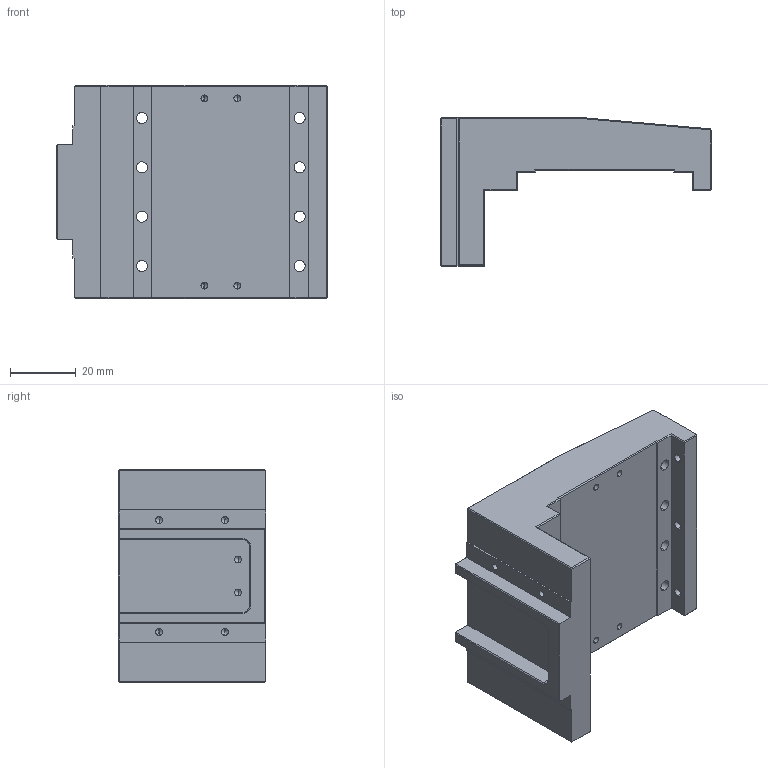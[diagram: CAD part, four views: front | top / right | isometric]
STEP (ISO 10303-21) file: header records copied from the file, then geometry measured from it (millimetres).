
FILE_DESCRIPTION (( 'STEP AP214' ), '1' );
FILE_NAME ('錨璃3.STEP', '2026-03-13T01:09:01', ( '' ), ( '' ), 'SwSTEP 2.0', 'SolidWorks 2024', '' );
FILE_SCHEMA (( 'AUTOMOTIVE_DESIGN' ));
Length unit declared in the file: millimetre
Products named in the file (1): 零件3
Bounding box: 82.5 x 45 x 65 mm (x, y, z)
Volume: 97161.1 mm3; surface area: 22875.9 mm2
Topology: 1 solids, 1 shells, 183 faces, 429 edges, 246 vertices
Faces by surface type: plane 98, cylinder 61, cone 24
Entity records: 5048 total; most frequent: DIRECTION 887, CARTESIAN_POINT 863, ORIENTED_EDGE 818, EDGE_CURVE 409, AXIS2_PLACEMENT_3D 302, VECTOR 283, LINE 283, VERTEX_POINT 246
